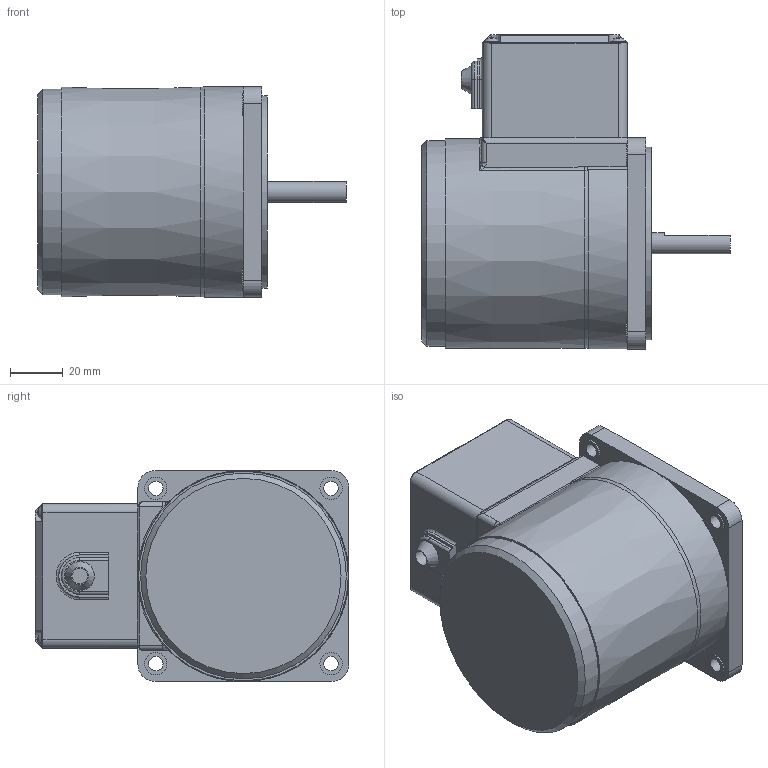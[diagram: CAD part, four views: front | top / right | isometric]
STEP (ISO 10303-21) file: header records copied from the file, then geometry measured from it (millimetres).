
FILE_DESCRIPTION((''),'2;1');
FILE_NAME('D:\STP파일\25W MOTOR\T1 BOX TYPE\S8I15D-T1.stp','2013-05-20T16:43:55',('leebh'),(''),'Autodesk Inventor 2011','Autodesk Inventor 2011','');
FILE_SCHEMA(('AUTOMOTIVE_DESIGN { 1 0 10303 214 1 1 1 1 }'));
Length unit declared in the file: millimetre
Products named in the file (1): 부품3
Bounding box: 117 x 119 x 80 mm (x, y, z)
Volume: 557076.6 mm3; surface area: 46862.5 mm2
Topology: 1 solids, 2 shells, 218 faces, 550 edges, 349 vertices
Faces by surface type: plane 126, cylinder 58, bspline 19, torus 12, cone 3
Full cylindrical faces by diameter (mm): 5.5 x4, 5.6 x4, 8 x2, 8.5 x4, 34 x1, 73 x1, 78 x1
Entity records: 7036 total; most frequent: CARTESIAN_POINT 1955, ORIENTED_EDGE 1014, DIRECTION 990, EDGE_CURVE 507, AXIS2_PLACEMENT_3D 356, VERTEX_POINT 342, VECTOR 278, LINE 278
